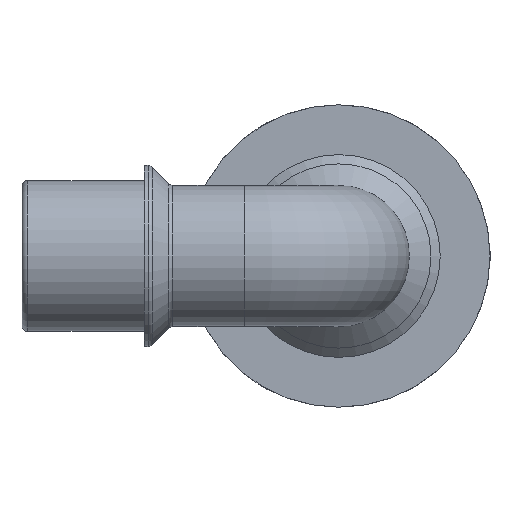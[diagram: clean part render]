
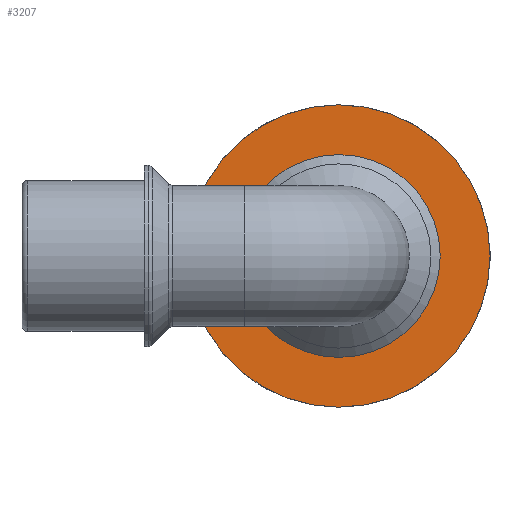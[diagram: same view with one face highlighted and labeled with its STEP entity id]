
A CAD part, left-side view. The second image highlights one B-rep face of the part: STEP entity #3207.
In plain terms, the highlighted planar face has unit normal (-1, 0, 0).
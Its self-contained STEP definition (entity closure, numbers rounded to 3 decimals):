
#127=PLANE('',#3584);
#677=FACE_BOUND('',#1108,.T.);
#889=FACE_OUTER_BOUND('',#1107,.T.);
#1107=EDGE_LOOP('',(#2932));
#1108=EDGE_LOOP('',(#2933));
#1314=CIRCLE('',#3585,21.);
#1315=CIRCLE('',#3586,14.09);
#1592=VERTEX_POINT('',#6091);
#1593=VERTEX_POINT('',#6093);
#2054=EDGE_CURVE('',#1592,#1592,#1314,.T.);
#2055=EDGE_CURVE('',#1593,#1593,#1315,.T.);
#2932=ORIENTED_EDGE('',*,*,#2054,.F.);
#2933=ORIENTED_EDGE('',*,*,#2055,.T.);
#3207=ADVANCED_FACE('',(#889,#677),#127,.T.);
#3584=AXIS2_PLACEMENT_3D('',#6090,#4512,#4513);
#3585=AXIS2_PLACEMENT_3D('',#6092,#4514,#4515);
#3586=AXIS2_PLACEMENT_3D('',#6094,#4516,#4517);
#4512=DIRECTION('center_axis',(-1.,0.,0.));
#4513=DIRECTION('ref_axis',(0.,0.,1.));
#4514=DIRECTION('center_axis',(1.,0.,0.));
#4515=DIRECTION('ref_axis',(0.,0.,-1.));
#4516=DIRECTION('center_axis',(1.,0.,0.));
#4517=DIRECTION('ref_axis',(0.,0.,-1.));
#6090=CARTESIAN_POINT('Origin',(28.62,21.,0.));
#6091=CARTESIAN_POINT('',(28.62,21.,0.));
#6092=CARTESIAN_POINT('Origin',(28.62,0.,0.));
#6093=CARTESIAN_POINT('',(28.62,14.09,0.));
#6094=CARTESIAN_POINT('Origin',(28.62,0.,0.));
